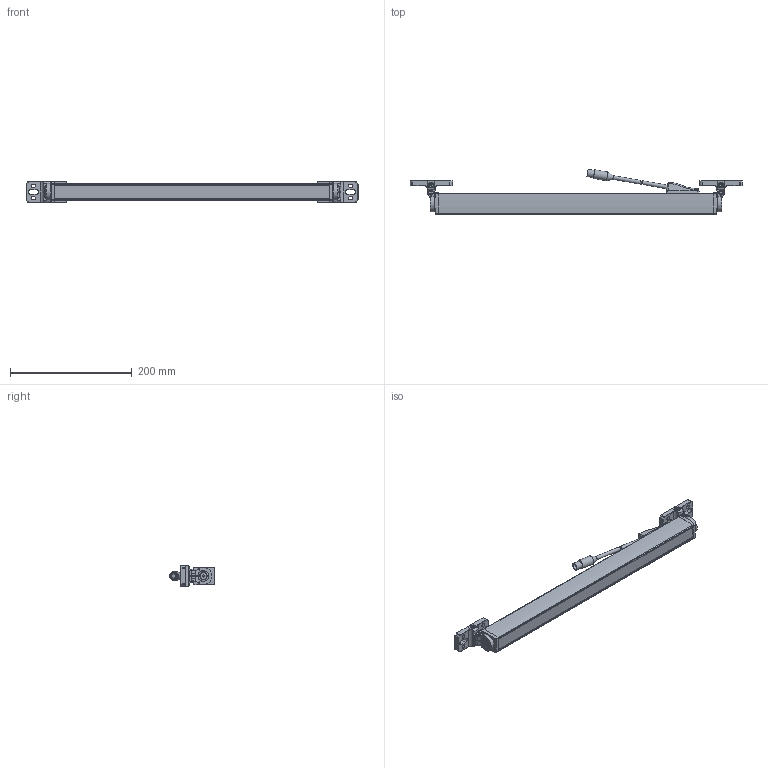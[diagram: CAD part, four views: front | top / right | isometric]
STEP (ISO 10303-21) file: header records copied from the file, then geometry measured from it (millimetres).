
FILE_DESCRIPTION((''),'2;1');
FILE_NAME('M:\INVENTORjob\Konstruktion\LV6036\Freigabe\Bauraummodelle\Geräte\stp\host - guest\MLC_T_450 G.stp','2014-04-11T13:15:36',('seisen'),(''),'Autodesk Inventor 2009','Autodesk Inventor 2009','');
FILE_SCHEMA(('AUTOMOTIVE_DESIGN { 1 0 10303 214 1 1 1 1 }'));
Length unit declared in the file: millimetre
Products named in the file (17): MLC_T_450 G; MLC_T_450_G_; Endkappe_T; Profil MLC 450; Endkappe_R; BT-R_Zubehör; Wandteil_Zubehör; Klemmring_BT-R_Zubehör; DIN 912 - ersetzt durch DIN EN ISO 4762 M5 x 12; DIN 934 - ersetzt durch DIN EN 24032/28673/28674 M5; DIN 6912 M5 x 30; Nutenstein M6; Zylinder_Zubehör; DIN 7991 - ersetzt durch DIN EN ISO 10642 M6  x  10; Anschluss input komplett; Tuellengehaeuse; CB-M12-500E-8FTP input
Assembly tree (22 placements, depth 3):
  MLC_T_450 G
    MLC_T_450_G_
      Endkappe_T
      Profil MLC 450
      Endkappe_R
    BT-R_Zubehör  x2
      Wandteil_Zubehör
      Klemmring_BT-R_Zubehör
      DIN 912 - ersetzt durch DIN EN ISO 4762 M5 x 12
      DIN 934 - ersetzt durch DIN EN 24032/28673/28674 M5
      DIN 6912 M5 x 30
    Nutenstein M6  x2
    Zylinder_Zubehör  x2
    DIN 7991 - ersetzt durch DIN EN ISO 10642 M6  x  10  x2
    Anschluss input komplett
      Tuellengehaeuse
      CB-M12-500E-8FTP input
Bounding box: 544.91 x 74.35 x 34 mm (x, y, z)
Volume: 488250.3 mm3; surface area: 119789 mm2
Topology: 26 solids, 26 shells, 809 faces, 2088 edges, 1318 vertices
Faces by surface type: plane 357, cylinder 255, bspline 83, cone 48, torus 45, sphere 21
Full cylindrical faces by diameter (mm): 2.5 x2, 4.65 x2, 5 x12, 5.18 x2, 5.55 x2, 6 x4, 6.2 x10, 8.5 x5, 8.6 x2, 11.34 x2, 12 x3, 14.5 x1
Entity records: 12147 total; most frequent: CARTESIAN_POINT 3647, DIRECTION 1662, ORIENTED_EDGE 1644, EDGE_CURVE 822, AXIS2_PLACEMENT_3D 623, VERTEX_POINT 553, EDGE_LOOP 427, VECTOR 416
